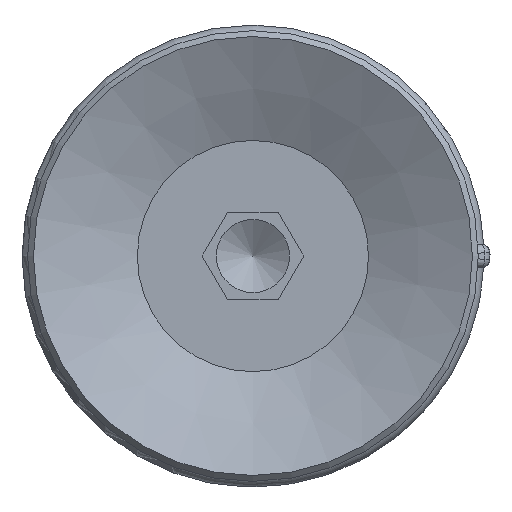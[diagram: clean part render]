
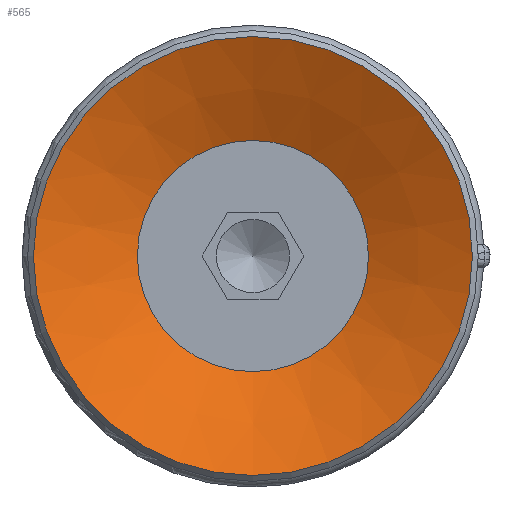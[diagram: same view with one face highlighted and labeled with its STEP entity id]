
A CAD part, front view. The second image highlights one B-rep face of the part: STEP entity #565.
In plain terms, the highlighted conical face has half-angle 64 degrees and reference radius 3.95 mm.
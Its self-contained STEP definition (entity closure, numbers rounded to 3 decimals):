
#565=ADVANCED_FACE('',(#857,#858),#859,.F.);
#857=FACE_BOUND('',#1231,.T.);
#858=FACE_OUTER_BOUND('',#1232,.T.);
#859=CONICAL_SURFACE('',#1233,3.95,1.117);
#1231=EDGE_LOOP('',(#2141));
#1232=EDGE_LOOP('',(#2142));
#1233=AXIS2_PLACEMENT_3D('',#2143,#2144,#2145);
#2141=ORIENTED_EDGE('',*,*,#2543,.F.);
#2142=ORIENTED_EDGE('',*,*,#2544,.T.);
#2143=CARTESIAN_POINT('',(0.0,-29.404,-47.168));
#2144=DIRECTION('',(-0.0,0.,1.0));
#2145=DIRECTION('',(0.0,-1.0,0.));
#2543=EDGE_CURVE('',#2964,#2964,#2965,.T.);
#2544=EDGE_CURVE('',#2966,#2966,#2967,.T.);
#2964=VERTEX_POINT('',#4012);
#2965=CIRCLE('',#4013,3.95);
#2966=VERTEX_POINT('',#4014);
#2967=CIRCLE('',#4015,7.5);
#4012=CARTESIAN_POINT('',(0.0,-33.354,-47.168));
#4013=AXIS2_PLACEMENT_3D('',#4421,#4422,#4423);
#4014=CARTESIAN_POINT('',(0.0,-36.904,-45.437));
#4015=AXIS2_PLACEMENT_3D('',#4424,#4425,#4426);
#4421=CARTESIAN_POINT('',(0.0,-29.404,-47.168));
#4422=DIRECTION('',(0.0,0.,1.0));
#4423=DIRECTION('',(0.0,-1.0,0.));
#4424=CARTESIAN_POINT('',(0.0,-29.404,-45.437));
#4425=DIRECTION('',(0.0,0.,1.0));
#4426=DIRECTION('',(0.0,-1.0,0.));
